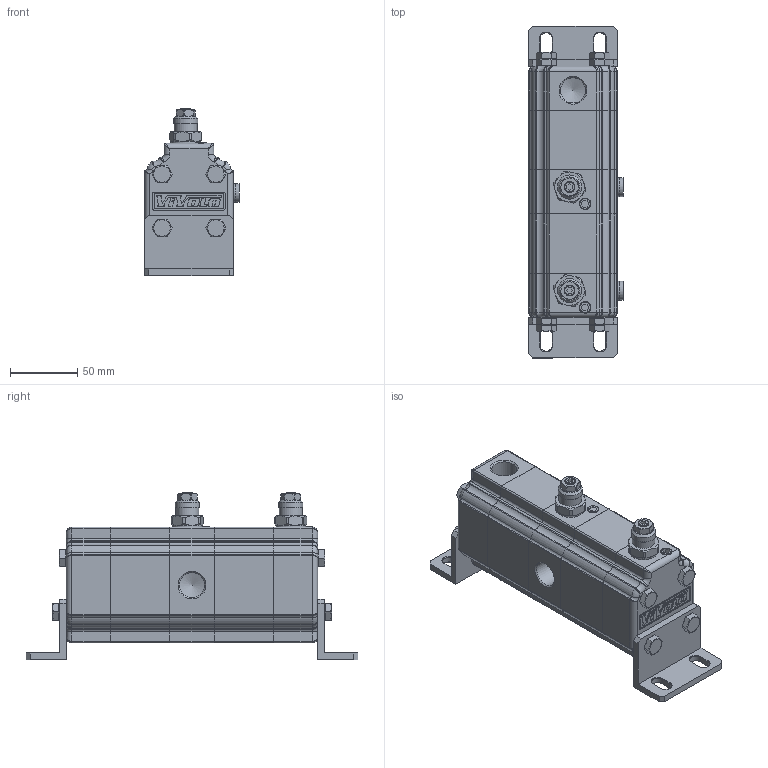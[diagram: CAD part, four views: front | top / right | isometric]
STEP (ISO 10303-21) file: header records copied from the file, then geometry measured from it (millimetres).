
FILE_DESCRIPTION(/* description */ ('Unknown'),/* implementation_level */ '2;1');
FILE_NAME(/* name */ '9RV02-18',/* time_stamp */ '2020-04-15T19:04:12+02:00',/* author */ ('Unknown'),/* organization */ ('Unknown'),/* preprocessor_version */ 'ST-DEVELOPER v16.7',/* originating_system */ 'DEX',/* authorisation */ $);
FILE_SCHEMA (('AUTOMOTIVE_DESIGN {1 0 10303 214 3 1 1}'));
Length unit declared in the file: millimetre
Products named in the file (1): RV-1V
Bounding box: 70.5 x 247 x 124.5 mm (x, y, z)
Volume: 954090 mm3; surface area: 86507.8 mm2
Topology: 1 solids, 1 shells, 894 faces, 2341 edges, 1478 vertices
Faces by surface type: plane 404, cylinder 318, cone 76, bspline 64, torus 32
Full cylindrical faces by diameter (mm): 8 x2, 8.57 x2, 12 x8, 14 x2, 14.1 x2, 14.95 x4, 17 x2, 18 x2, 18.631 x4, 22 x2
Entity records: 37702 total; most frequent: CARTESIAN_POINT 9896, DIRECTION 4495, ORIENTED_EDGE 4448, EDGE_CURVE 2224, AXIS2_PLACEMENT_3D 1621, VERTEX_POINT 1451, LINE 1253, VECTOR 1253
